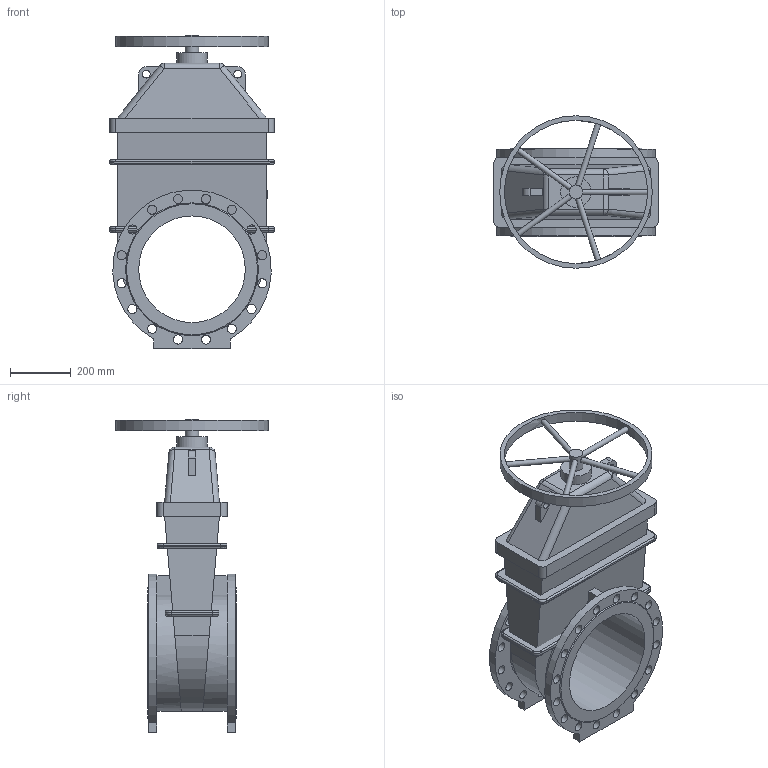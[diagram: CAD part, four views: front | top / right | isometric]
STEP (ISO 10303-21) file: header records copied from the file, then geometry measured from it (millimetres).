
FILE_DESCRIPTION(('STEP AP203'), '1');
FILE_NAME('Çàäâèæêà 47GV DN350 PN10_PN16_L290_W500 ñ ìàõîâèêîì', '', ('UNSPECIFIED'), ('UNSPECIFIED'), 'ASCON STEP Converter 1.6', 'ASCON Math Kernel', '');
FILE_SCHEMA(('CONFIG_CONTROL_DESIGN'));
Length unit declared in the file: millimetre
Bounding box: 540 x 500 x 1027 mm (x, y, z)
Volume: 54329764.4 mm3; surface area: 2309547.2 mm2
Topology: 1 solids, 1 shells, 210 faces, 536 edges, 332 vertices
Faces by surface type: cylinder 99, plane 89, bspline 14, torus 6, cone 2
Full cylindrical faces by diameter (mm): 18 x5, 25 x2, 30 x32, 45 x1, 100 x1, 350 x1, 470 x1, 500 x1
Entity records: 10476 total; most frequent: CARTESIAN_POINT 3805, DIRECTION 985, ORIENTED_EDGE 970, EDGE_CURVE 485, AXIS2_PLACEMENT_3D 373, EDGE_LOOP 353, VERTEX_POINT 332, FACE_BOUND 262
